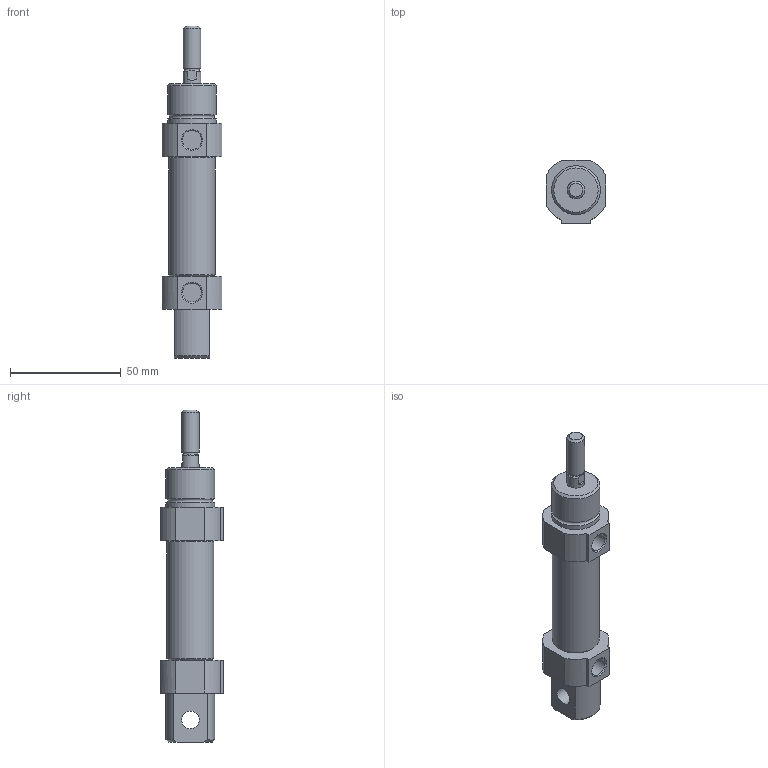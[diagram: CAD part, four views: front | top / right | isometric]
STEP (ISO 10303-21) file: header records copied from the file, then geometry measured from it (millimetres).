
FILE_DESCRIPTION((''),'2;1');
FILE_NAME('I:\3D電子目錄\氣缸\SDA\SDA20\SDA20\SDA20x25.stp','2007-08-06T10:32:13',('Administrator'),(''),'Autodesk Inventor 2008','Autodesk Inventor 2008','');
FILE_SCHEMA(('AUTOMOTIVE_DESIGN { 1 0 10303 214 1 1 1 1 }'));
Length unit declared in the file: millimetre
Products named in the file (1): SDA20X25
Bounding box: 27 x 28.5 x 150 mm (x, y, z)
Volume: 52280.3 mm3; surface area: 12702.2 mm2
Topology: 1 solids, 1 shells, 62 faces, 146 edges, 94 vertices
Faces by surface type: plane 30, cylinder 19, cone 10, bspline 2, torus 1
Full cylindrical faces by diameter (mm): 6.6 x1, 8 x3, 8.5 x2, 21.2 x1, 22 x2
Entity records: 1718 total; most frequent: CARTESIAN_POINT 307, DIRECTION 298, ORIENTED_EDGE 258, EDGE_CURVE 129, AXIS2_PLACEMENT_3D 116, VERTEX_POINT 93, EDGE_LOOP 88, VECTOR 66
